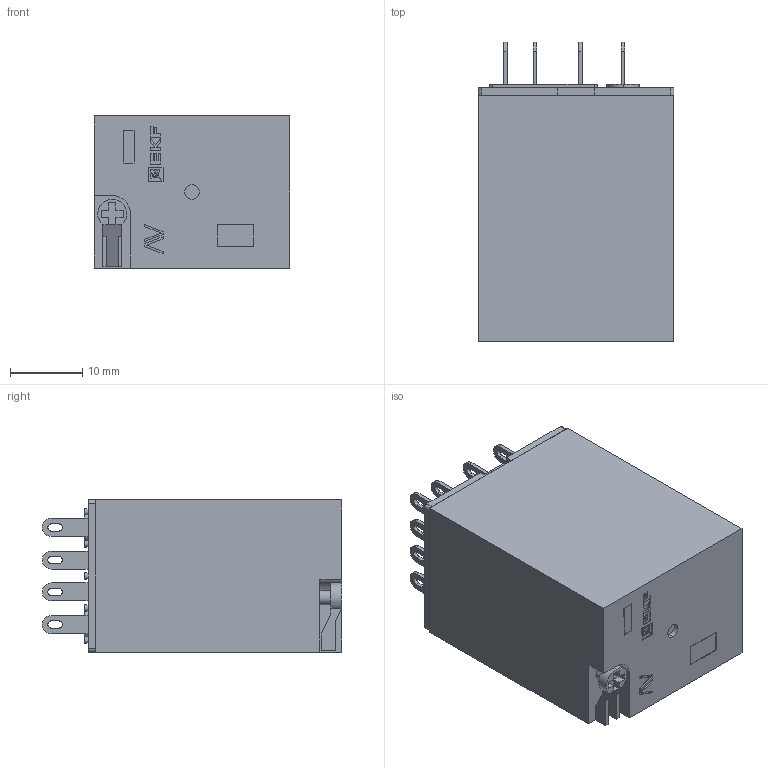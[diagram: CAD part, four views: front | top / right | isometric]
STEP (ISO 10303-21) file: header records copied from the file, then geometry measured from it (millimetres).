
FILE_DESCRIPTION (( 'STEP AP203' ), '1' );
FILE_NAME ('rpat-22-4-230AC(24DC).ÃÌ Ðåëå ïðîìåæóòî÷íîå ñ êíîïêîé è ìåõ. Èíäèêàöèåé.STEP', '2024-04-08T13:18:57', ( '' ), ( '' ), 'SwSTEP 2.0', 'SolidWorks 2021', '' );
FILE_SCHEMA (( 'CONFIG_CONTROL_DESIGN' ));
Length unit declared in the file: millimetre
Products named in the file (1): rpat-22-4-230AC(24DC).ÃÌ Ðåëå ïðîìåæóòî÷íîå ñ êíîïêîé è ìåõ. Èíäèêàöèåé
Bounding box: 27 x 41.3 x 21 mm (x, y, z)
Volume: 19849.3 mm3; surface area: 6352.4 mm2
Topology: 17 solids, 17 shells, 329 faces, 813 edges, 539 vertices
Faces by surface type: plane 248, cylinder 67, bspline 14
Entity records: 9820 total; most frequent: CARTESIAN_POINT 1854, ORIENTED_EDGE 1622, DIRECTION 1553, EDGE_CURVE 811, LINE 649, VECTOR 649, VERTEX_POINT 539, AXIS2_PLACEMENT_3D 452
